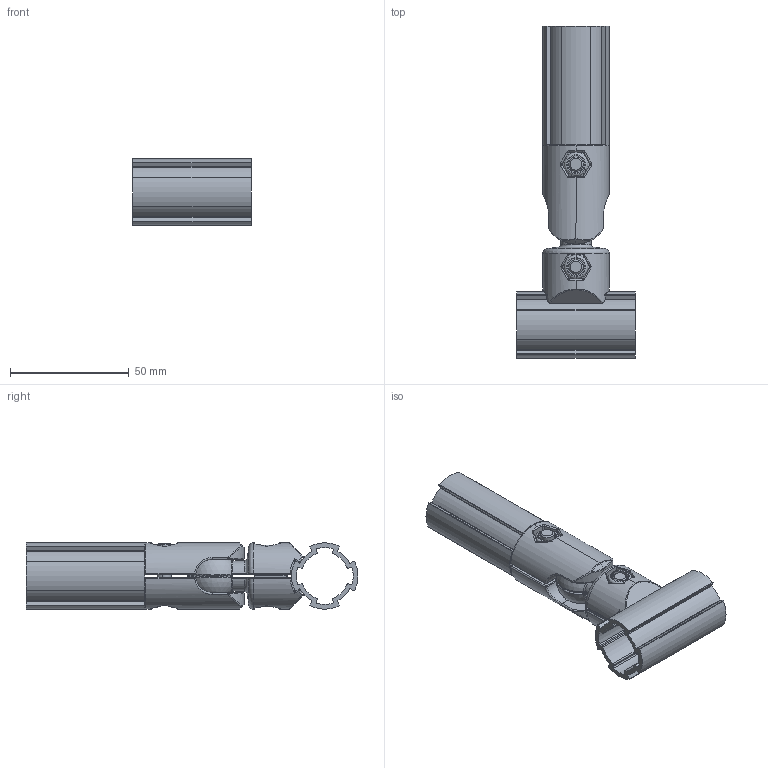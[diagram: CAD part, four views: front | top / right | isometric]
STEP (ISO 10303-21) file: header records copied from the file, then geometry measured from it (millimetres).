
FILE_DESCRIPTION (( 'STEP AP214' ), '1' );
FILE_NAME ('099RV28KS05.STEP', '2019-09-16T12:14:51', ( '' ), ( '' ), 'SwSTEP 2.0', 'SolidWorks 2019', '' );
FILE_SCHEMA (( 'AUTOMOTIVE_DESIGN' ));
Length unit declared in the file: millimetre
Products named in the file (6): 4iso10511m06m_4iso10511m06m; 114932 - 4DIN912M0620M_DIN 912 M6 x 20 --- 25N; rundrohr-28(Standard)___; 099RV28KS05R01_099RV28KS05R01; 099RV28KS05; 099RV28KS04R01
Assembly tree (10 placements, depth 2):
  099RV28KS05
    099RV28KS05R01_099RV28KS05R01  x2
    4iso10511m06m_4iso10511m06m  x2
    099RV28KS04R01  x2
    114932 - 4DIN912M0620M_DIN 912 M6 x 20 --- 25N  x2
    rundrohr-28(Standard)___  x2
Bounding box: 50 x 139.98 x 28 mm (x, y, z)
Volume: 53181.1 mm3; surface area: 38453.6 mm2
Topology: 10 solids, 10 shells, 1410 faces, 3356 edges, 1898 vertices
Faces by surface type: cylinder 530, bspline 242, torus 238, plane 232, sphere 112, cone 56
Entity records: 23478 total; most frequent: CARTESIAN_POINT 7925, DIRECTION 3317, ORIENTED_EDGE 3236, EDGE_CURVE 1618, AXIS2_PLACEMENT_3D 1404, VERTEX_POINT 934, CIRCLE 807, EDGE_LOOP 724
